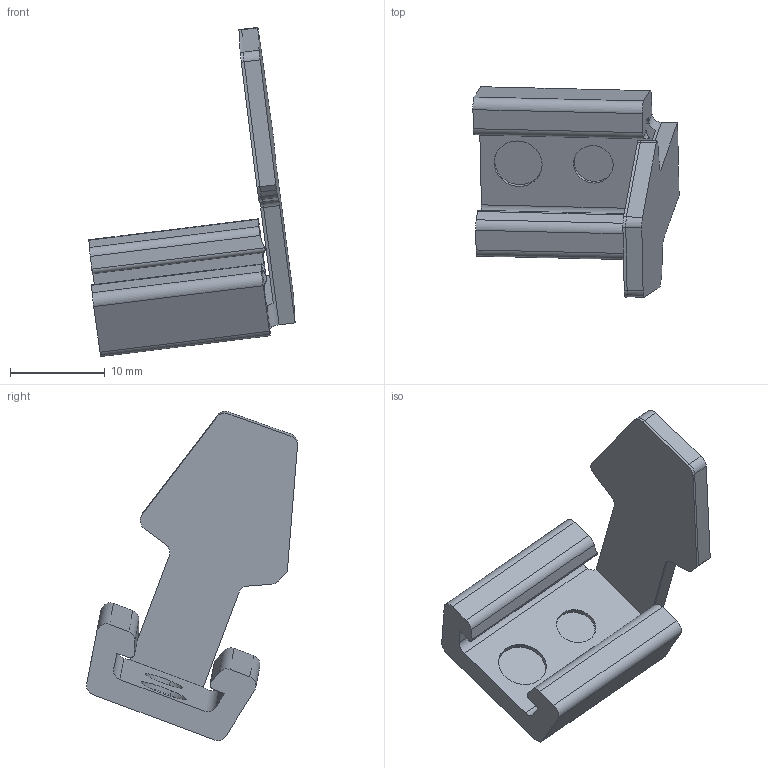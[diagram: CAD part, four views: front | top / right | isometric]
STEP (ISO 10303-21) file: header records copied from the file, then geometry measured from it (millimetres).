
FILE_DESCRIPTION(('CATIA V5 STEP Exchange'),'2;1');
FILE_NAME('G:\够快云库\系统集成开发部\1.部门成员\孙国\3D-stp打印件\20220215\gaiban.stp','2022-02-15T02:41:37+00:00',('none'),('none'),'CATIA Version 5 Release 20 GA (IN-10)','CATIA V5 STEP AP214','none');
FILE_SCHEMA(('AUTOMOTIVE_DESIGN { 1 0 10303 214 1 1 1 1 }'));
Length unit declared in the file: millimetre
Products named in the file (1): gaiban
Bounding box: 21.73 x 22.23 x 34.7 mm (x, y, z)
Volume: 1968.3 mm3; surface area: 2050.6 mm2
Topology: 1 solids, 1 shells, 64 faces, 167 edges, 107 vertices
Faces by surface type: cylinder 30, plane 28, torus 4, sphere 2
Entity records: 1948 total; most frequent: CARTESIAN_POINT 426, ORIENTED_EDGE 334, DIRECTION 261, EDGE_CURVE 167, AXIS2_PLACEMENT_3D 112, VERTEX_POINT 107, VECTOR 95, LINE 95
